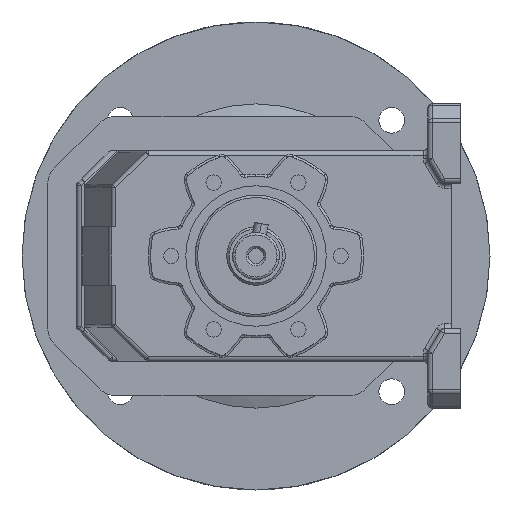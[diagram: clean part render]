
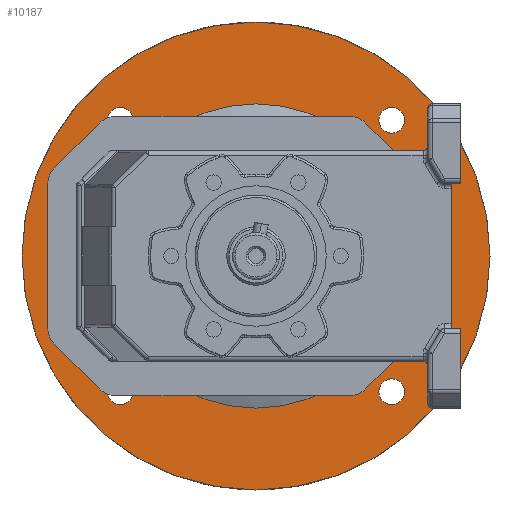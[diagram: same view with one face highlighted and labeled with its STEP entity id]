
A CAD part, left-side view. The second image highlights one B-rep face of the part: STEP entity #10187.
In plain terms, the highlighted planar face has unit normal (-1, 0, 0) as drawn and (0, 1, 0) by its records, which use the part's own axes.
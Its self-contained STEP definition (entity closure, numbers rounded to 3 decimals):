
#303 = AXIS2_PLACEMENT_3D ( 'NONE', #11405, #4628, #12522 ) ;
#386 = CARTESIAN_POINT ( 'NONE',  ( 63.483, 34.115, 57.983 ) ) ;
#568 = DIRECTION ( 'NONE',  ( 1., 0., 0. ) ) ;
#627 = EDGE_CURVE ( 'NONE', #5722, #8476, #13970, .T. ) ;
#659 = DIRECTION ( 'NONE',  ( 0., -1., 0. ) ) ;
#733 = ORIENTED_EDGE ( 'NONE', *, *, #10875, .T. ) ;
#789 = CARTESIAN_POINT ( 'NONE',  ( -63.483, 34.115, -57.983 ) ) ;
#801 = DIRECTION ( 'NONE',  ( 0., -1., 0. ) ) ;
#873 = EDGE_CURVE ( 'NONE', #9042, #3785, #8505, .T. ) ;
#1271 = AXIS2_PLACEMENT_3D ( 'NONE', #12311, #5565, #13450 ) ;
#1310 = AXIS2_PLACEMENT_3D ( 'NONE', #4960, #12853, #6104 ) ;
#1396 = ORIENTED_EDGE ( 'NONE', *, *, #11903, .T. ) ;
#1508 = CARTESIAN_POINT ( 'NONE',  ( -100., 34.115, 0. ) ) ;
#1603 = EDGE_LOOP ( 'NONE', ( #3276, #11696 ) ) ;
#2263 = EDGE_LOOP ( 'NONE', ( #5784, #2474 ) ) ;
#2264 = DIRECTION ( 'NONE',  ( 0., 1., 0. ) ) ;
#2436 = VERTEX_POINT ( 'NONE', #2439 ) ;
#2439 = CARTESIAN_POINT ( 'NONE',  ( -65., 34.115, 0. ) ) ;
#2474 = ORIENTED_EDGE ( 'NONE', *, *, #7246, .T. ) ;
#2484 = ORIENTED_EDGE ( 'NONE', *, *, #3668, .F. ) ;
#2619 = CARTESIAN_POINT ( 'NONE',  ( -52.483, 34.115, -57.983 ) ) ;
#2644 = FACE_BOUND ( 'NONE', #1603, .T. ) ;
#2720 = EDGE_CURVE ( 'NONE', #3042, #2436, #8980, .T. ) ;
#2824 = ORIENTED_EDGE ( 'NONE', *, *, #5933, .T. ) ;
#2997 = FACE_BOUND ( 'NONE', #3096, .T. ) ;
#3042 = VERTEX_POINT ( 'NONE', #7683 ) ;
#3096 = EDGE_LOOP ( 'NONE', ( #1396, #6755 ) ) ;
#3226 = DIRECTION ( 'NONE',  ( 0., 1., 0. ) ) ;
#3276 = ORIENTED_EDGE ( 'NONE', *, *, #14274, .T. ) ;
#3339 = VERTEX_POINT ( 'NONE', #386 ) ;
#3468 = DIRECTION ( 'NONE',  ( 0., 1., 0. ) ) ;
#3668 = EDGE_CURVE ( 'NONE', #2436, #3042, #12966, .T. ) ;
#3785 = VERTEX_POINT ( 'NONE', #2619 ) ;
#3827 = AXIS2_PLACEMENT_3D ( 'NONE', #14129, #7369, #568 ) ;
#4101 = DIRECTION ( 'NONE',  ( 0., -1., 0. ) ) ;
#4475 = CARTESIAN_POINT ( 'NONE',  ( -63.483, 34.115, 57.983 ) ) ;
#4628 = DIRECTION ( 'NONE',  ( 0., 1., 0. ) ) ;
#4642 = CIRCLE ( 'NONE', #1310, 5.5 ) ;
#4960 = CARTESIAN_POINT ( 'NONE',  ( 57.983, 34.115, -57.983 ) ) ;
#5184 = DIRECTION ( 'NONE',  ( 0., -1., 0. ) ) ;
#5318 = PLANE ( 'NONE',  #14322 ) ;
#5565 = DIRECTION ( 'NONE',  ( 0., -1., 0. ) ) ;
#5673 = DIRECTION ( 'NONE',  ( 0., -1., 0. ) ) ;
#5722 = VERTEX_POINT ( 'NONE', #4475 ) ;
#5784 = ORIENTED_EDGE ( 'NONE', *, *, #8056, .T. ) ;
#5933 = EDGE_CURVE ( 'NONE', #6923, #8631, #4642, .T. ) ;
#6104 = DIRECTION ( 'NONE',  ( 1., 0., 0. ) ) ;
#6325 = CARTESIAN_POINT ( 'NONE',  ( -57.983, 34.115, -57.983 ) ) ;
#6466 = CARTESIAN_POINT ( 'NONE',  ( 100., 34.115, 0. ) ) ;
#6541 = CIRCLE ( 'NONE', #303, 100. ) ;
#6591 = CARTESIAN_POINT ( 'NONE',  ( 100., 34.115, 0. ) ) ;
#6755 = ORIENTED_EDGE ( 'NONE', *, *, #627, .T. ) ;
#6923 = VERTEX_POINT ( 'NONE', #14701 ) ;
#6932 = CIRCLE ( 'NONE', #11007, 5.5 ) ;
#7246 = EDGE_CURVE ( 'NONE', #10755, #3339, #6932, .T. ) ;
#7369 = DIRECTION ( 'NONE',  ( 0., -1., 0. ) ) ;
#7444 = DIRECTION ( 'NONE',  ( 1., 0., 0. ) ) ;
#7449 = CARTESIAN_POINT ( 'NONE',  ( -57.983, 34.115, -57.983 ) ) ;
#7683 = CARTESIAN_POINT ( 'NONE',  ( 65., 34.115, 0. ) ) ;
#8056 = EDGE_CURVE ( 'NONE', #3339, #10755, #9092, .T. ) ;
#8312 = FACE_OUTER_BOUND ( 'NONE', #12841, .T. ) ;
#8414 = VERTEX_POINT ( 'NONE', #1508 ) ;
#8476 = VERTEX_POINT ( 'NONE', #11729 ) ;
#8505 = CIRCLE ( 'NONE', #13399, 5.5 ) ;
#8599 = DIRECTION ( 'NONE',  ( 1., 0., 0. ) ) ;
#8631 = VERTEX_POINT ( 'NONE', #13159 ) ;
#8660 = FACE_BOUND ( 'NONE', #2263, .T. ) ;
#8681 = AXIS2_PLACEMENT_3D ( 'NONE', #10239, #3468, #11378 ) ;
#8736 = DIRECTION ( 'NONE',  ( 1., 0., 0. ) ) ;
#8980 = CIRCLE ( 'NONE', #12373, 65. ) ;
#9042 = VERTEX_POINT ( 'NONE', #789 ) ;
#9056 = CARTESIAN_POINT ( 'NONE',  ( 0., 34.115, 0. ) ) ;
#9059 = CIRCLE ( 'NONE', #12688, 100. ) ;
#9083 = EDGE_CURVE ( 'NONE', #12435, #8414, #9059, .T. ) ;
#9092 = CIRCLE ( 'NONE', #3827, 5.5 ) ;
#9710 = CIRCLE ( 'NONE', #9984, 5.5 ) ;
#9846 = ORIENTED_EDGE ( 'NONE', *, *, #2720, .F. ) ;
#9978 = CARTESIAN_POINT ( 'NONE',  ( 52.483, 34.115, 57.983 ) ) ;
#9984 = AXIS2_PLACEMENT_3D ( 'NONE', #11938, #5184, #13072 ) ;
#9998 = CARTESIAN_POINT ( 'NONE',  ( 0., 34.115, 0. ) ) ;
#10156 = ORIENTED_EDGE ( 'NONE', *, *, #9083, .T. ) ;
#10182 = DIRECTION ( 'NONE',  ( -1., 0., 0. ) ) ;
#10187 = ADVANCED_FACE ( 'NONE', ( #11656, #2644, #2997, #8660, #11307, #8312 ), #5318, .F. ) ;
#10239 = CARTESIAN_POINT ( 'NONE',  ( 0., 34.115, 0. ) ) ;
#10543 = EDGE_CURVE ( 'NONE', #8631, #6923, #9710, .T. ) ;
#10755 = VERTEX_POINT ( 'NONE', #9978 ) ;
#10875 = EDGE_CURVE ( 'NONE', #8414, #12435, #6541, .T. ) ;
#10879 = CARTESIAN_POINT ( 'NONE',  ( 57.983, 34.115, 57.983 ) ) ;
#11007 = AXIS2_PLACEMENT_3D ( 'NONE', #10879, #4101, #11996 ) ;
#11122 = DIRECTION ( 'NONE',  ( -1., 0., 0. ) ) ;
#11307 = FACE_BOUND ( 'NONE', #13163, .T. ) ;
#11378 = DIRECTION ( 'NONE',  ( -1., 0., 0. ) ) ;
#11405 = CARTESIAN_POINT ( 'NONE',  ( 0., 34.115, 0. ) ) ;
#11656 = FACE_BOUND ( 'NONE', #11685, .T. ) ;
#11685 = EDGE_LOOP ( 'NONE', ( #13612, #2824 ) ) ;
#11696 = ORIENTED_EDGE ( 'NONE', *, *, #873, .T. ) ;
#11729 = CARTESIAN_POINT ( 'NONE',  ( -52.483, 34.115, 57.983 ) ) ;
#11903 = EDGE_CURVE ( 'NONE', #8476, #5722, #12838, .T. ) ;
#11938 = CARTESIAN_POINT ( 'NONE',  ( 57.983, 34.115, -57.983 ) ) ;
#11996 = DIRECTION ( 'NONE',  ( 1., 0., 0. ) ) ;
#12243 = CIRCLE ( 'NONE', #14490, 5.5 ) ;
#12311 = CARTESIAN_POINT ( 'NONE',  ( -57.983, 34.115, 57.983 ) ) ;
#12373 = AXIS2_PLACEMENT_3D ( 'NONE', #9056, #2264, #10182 ) ;
#12404 = CARTESIAN_POINT ( 'NONE',  ( -57.983, 34.115, 57.983 ) ) ;
#12435 = VERTEX_POINT ( 'NONE', #6591 ) ;
#12522 = DIRECTION ( 'NONE',  ( -1., 0., 0. ) ) ;
#12688 = AXIS2_PLACEMENT_3D ( 'NONE', #9998, #3226, #11122 ) ;
#12838 = CIRCLE ( 'NONE', #13504, 5.5 ) ;
#12841 = EDGE_LOOP ( 'NONE', ( #733, #10156 ) ) ;
#12853 = DIRECTION ( 'NONE',  ( 0., -1., 0. ) ) ;
#12966 = CIRCLE ( 'NONE', #8681, 65. ) ;
#13072 = DIRECTION ( 'NONE',  ( 1., 0., 0. ) ) ;
#13159 = CARTESIAN_POINT ( 'NONE',  ( 63.483, 34.115, -57.983 ) ) ;
#13163 = EDGE_LOOP ( 'NONE', ( #9846, #2484 ) ) ;
#13399 = AXIS2_PLACEMENT_3D ( 'NONE', #7449, #659, #8599 ) ;
#13450 = DIRECTION ( 'NONE',  ( 1., 0., 0. ) ) ;
#13504 = AXIS2_PLACEMENT_3D ( 'NONE', #12404, #5673, #13548 ) ;
#13548 = DIRECTION ( 'NONE',  ( 1., 0., 0. ) ) ;
#13612 = ORIENTED_EDGE ( 'NONE', *, *, #10543, .T. ) ;
#13970 = CIRCLE ( 'NONE', #1271, 5.5 ) ;
#14129 = CARTESIAN_POINT ( 'NONE',  ( 57.983, 34.115, 57.983 ) ) ;
#14214 = DIRECTION ( 'NONE',  ( 0., -1., 0. ) ) ;
#14274 = EDGE_CURVE ( 'NONE', #3785, #9042, #12243, .T. ) ;
#14322 = AXIS2_PLACEMENT_3D ( 'NONE', #6466, #801, #8736 ) ;
#14490 = AXIS2_PLACEMENT_3D ( 'NONE', #6325, #14214, #7444 ) ;
#14701 = CARTESIAN_POINT ( 'NONE',  ( 52.483, 34.115, -57.983 ) ) ;
